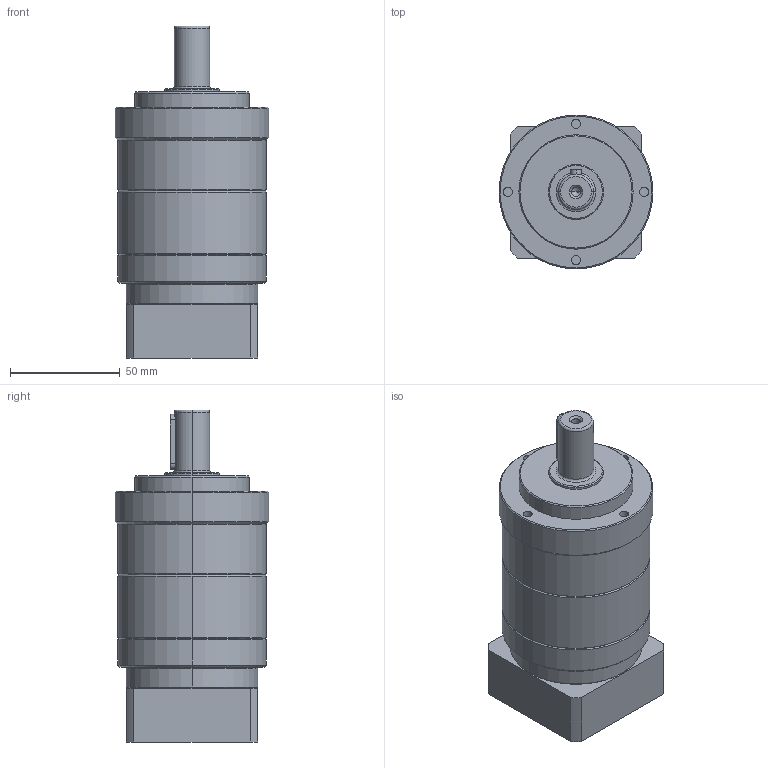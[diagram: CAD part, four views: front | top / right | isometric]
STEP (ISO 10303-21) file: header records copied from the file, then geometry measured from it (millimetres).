
FILE_DESCRIPTION (( 'STEP AP214' ), '1' );
FILE_NAME ('VRL-070-L2-S2-P1 14-50-70-M4.STEP', '2024-02-03T03:20:20', ( '微软用户' ), ( '微软中国' ), 'SwSTEP 2.0', 'SolidWorks 2018', '' );
FILE_SCHEMA (( 'AUTOMOTIVE_DESIGN' ));
Length unit declared in the file: millimetre
Products named in the file (1): VRL-070-L2-S2-P1 14-50-70-M4
Bounding box: 70 x 70 x 151 mm (x, y, z)
Volume: 394190.8 mm3; surface area: 44124.8 mm2
Topology: 1 solids, 1 shells, 108 faces, 231 edges, 141 vertices
Faces by surface type: cylinder 49, plane 29, cone 26, torus 4
Entity records: 3029 total; most frequent: DIRECTION 567, CARTESIAN_POINT 542, ORIENTED_EDGE 458, AXIS2_PLACEMENT_3D 232, EDGE_CURVE 229, VERTEX_POINT 141, EDGE_LOOP 126, CIRCLE 123
